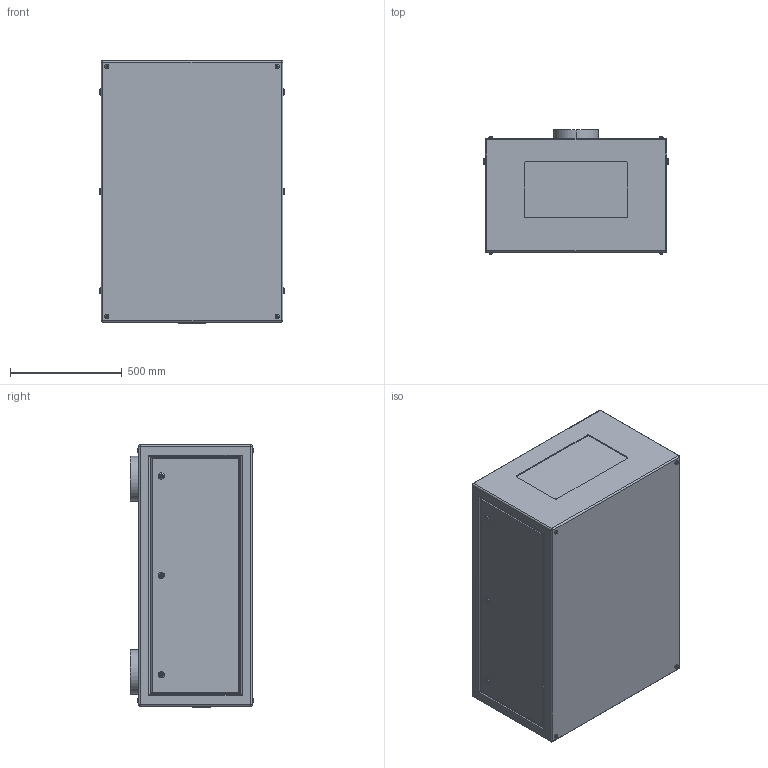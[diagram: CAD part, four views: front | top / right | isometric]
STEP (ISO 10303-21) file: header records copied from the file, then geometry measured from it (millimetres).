
FILE_DESCRIPTION (( 'STEP AP214' ), '1' );
FILE_NAME ('Tacit 56.204.L R08.STEP', '2022-09-11T22:33:15', ( '' ), ( '' ), 'SwSTEP 2.0', 'SolidWorks 2020', '' );
FILE_SCHEMA (( 'AUTOMOTIVE_DESIGN' ));
Length unit declared in the file: inch
Products named in the file (1): Tacit 56.204.L R08
Bounding box: 825.5 x 553.35 x 1173.48 mm (x, y, z)
Volume: 481251744.5 mm3; surface area: 4202404.4 mm2
Topology: 1 solids, 5 shells, 365 faces, 812 edges, 508 vertices
Faces by surface type: plane 157, cylinder 156, torus 44, sphere 8
Entity records: 13557 total; most frequent: CARTESIAN_POINT 2110, DIRECTION 1808, ORIENTED_EDGE 1608, EDGE_CURVE 804, AXIS2_PLACEMENT_3D 718, VERTEX_POINT 508, EDGE_LOOP 424, VECTOR 372
